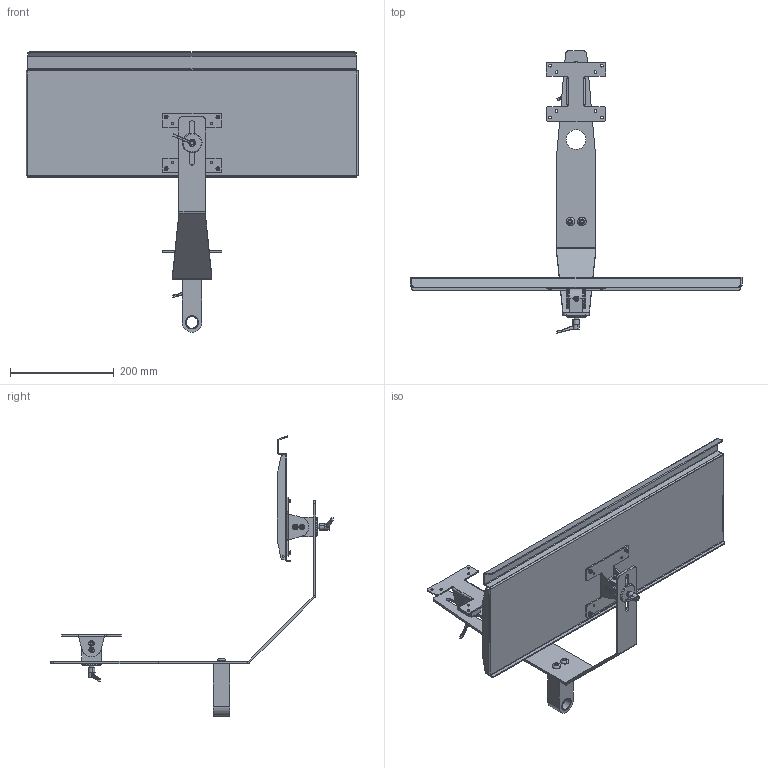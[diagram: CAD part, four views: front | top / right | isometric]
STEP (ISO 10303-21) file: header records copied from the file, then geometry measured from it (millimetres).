
FILE_DESCRIPTION (( 'STEP AP203' ), '1' );
FILE_NAME ('70-0080-00 REV AA, INTEGRATED WORKSTATION.STEP', '2025-09-23T21:52:00', ( '' ), ( '' ), 'SwSTEP 2.0', 'SolidWorks 2025', '' );
FILE_SCHEMA (( 'CONFIG_CONTROL_DESIGN' ));
Length unit declared in the file: inch
Products named in the file (22): 11-0028-RX REV AA, PLASTIC DISC, VESA; 007-017-00, SHSS, 1''4-20, .25L_DEFAULT; 41-0060-RX REV AA, BODY, VESA, INT. WORKSTATION; 007-034-00, SHSS, .375-24, .25L_007-034-00; 11-0027-RX REV AA, PLASTIC DISC, BRAKE ASSEMBLY_MACHINE; 016-012-00, OILITE PLUS BEARING, .876 IDx1.0 OD x 1.0; 11-0062-BLKX REV AA, BRACKET, VESA, SHEETMETAL, BLACK; 70-0080-00 REV AA, INTEGRATED WORKSTATION; 70-0072-00 REV AA, EXTENSION ARM; 002-306-00, BHSCS, 3''8-16 x .625; 41-0063-RX REV AA, PIN, TILT, VESA; 42-0060-00 REV AA, VESA SUB ASSEMBLY, INT. WORKSTATION; 71-0072-RX REV AA, EXTENSION ARM, RAW; 41-0060-ANX REV AA, BODY, VESA, INT. WORKSTATION, BLACK; 11-0405-BLKX REV AA, BRACKET, INTEGRATED WORKSTATION, BLACK; 016-008-00, OILITE PLUS BEARING, 0.876 id x 1.002 od x 1.25 lg; 025-064-00, LOCK LEVER, QUARTER20 x .390; 019-004_019-004; 11-0406-BLKX REV AA, KEYBOARD TRAY, 25x8, BLACK; 002-088-00, FHSCS 10-32 x .5L, BO_002-088-00; 006-002-00_006-002-00
Assembly tree (45 placements, depth 4):
  70-0080-00 REV AA, INTEGRATED WORKSTATION
    11-0405-BLKX REV AA, BRACKET, INTEGRATED WORKSTATION, BLACK
    42-0060-00 REV AA, VESA SUB ASSEMBLY, INT. WORKSTATION
      41-0060-ANX REV AA, BODY, VESA, INT. WORKSTATION, BLACK
        41-0060-RX REV AA, BODY, VESA, INT. WORKSTATION
      41-0063-RX REV AA, PIN, TILT, VESA
      11-0062-BLKX REV AA, BRACKET, VESA, SHEETMETAL, BLACK
      11-0027-RX REV AA, PLASTIC DISC, BRAKE ASSEMBLY_MACHINE
      025-064-00, LOCK LEVER, QUARTER20 x .390
      016-012-00, OILITE PLUS BEARING, .876 IDx1.0 OD x 1.0
      007-034-00, SHSS, .375-24, .25L_007-034-00
      11-0028-RX REV AA, PLASTIC DISC, VESA  x2
      002-088-00, FHSCS 10-32 x .5L, BO_002-088-00  x4
    11-0406-BLKX REV AA, KEYBOARD TRAY, 25x8, BLACK
    70-0072-00 REV AA, EXTENSION ARM
      71-0072-RX REV AA, EXTENSION ARM, RAW
      016-008-00, OILITE PLUS BEARING, 0.876 id x 1.002 od x 1.25 lg
      007-017-00, SHSS, 1''4-20, .25L_DEFAULT
    002-306-00, BHSCS, 3''8-16 x .625  x2
    42-0060-00 REV AA, VESA SUB ASSEMBLY, INT. WORKSTATION
      41-0060-ANX REV AA, BODY, VESA, INT. WORKSTATION, BLACK
        41-0060-RX REV AA, BODY, VESA, INT. WORKSTATION
      41-0063-RX REV AA, PIN, TILT, VESA
      11-0062-BLKX REV AA, BRACKET, VESA, SHEETMETAL, BLACK
      11-0027-RX REV AA, PLASTIC DISC, BRAKE ASSEMBLY_MACHINE
      025-064-00, LOCK LEVER, QUARTER20 x .390
      016-012-00, OILITE PLUS BEARING, .876 IDx1.0 OD x 1.0
      007-034-00, SHSS, .375-24, .25L_007-034-00
      11-0028-RX REV AA, PLASTIC DISC, VESA  x2
      002-088-00, FHSCS 10-32 x .5L, BO_002-088-00  x4
    006-002-00_006-002-00  x4
    019-004_019-004  x4
Bounding box: 641.2 x 545.93 x 541.76 mm (x, y, z)
Volume: 895326 mm3; surface area: 596313.7 mm2
Topology: 45 solids, 45 shells, 2019 faces, 4976 edges, 3064 vertices
Faces by surface type: cylinder 963, cone 508, plane 432, torus 64, bspline 48, sphere 4
Entity records: 31285 total; most frequent: CARTESIAN_POINT 12162, ORIENTED_EDGE 3448, DIRECTION 3323, EDGE_CURVE 1724, AXIS2_PLACEMENT_3D 1292, VERTEX_POINT 1058, EDGE_LOOP 800, LINE 739
